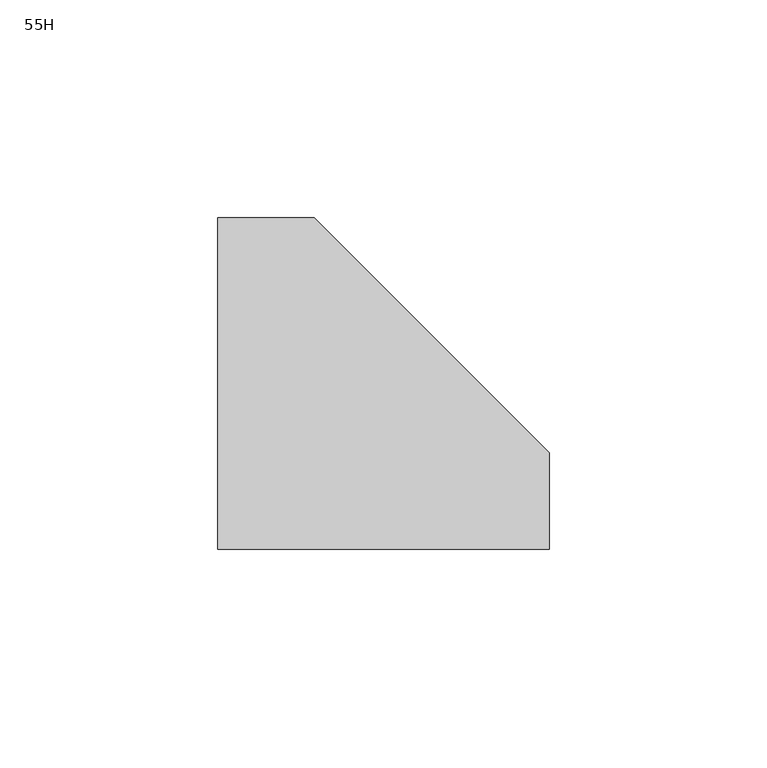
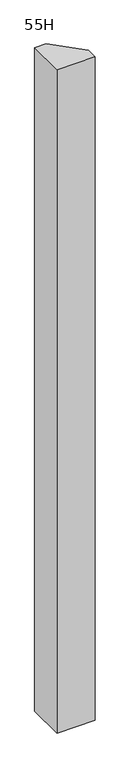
"""IFC4 building model written with IfcOpenShell, lengths in millimetres: furniture geometry, Steelcase - Montage - Junction - L Chamfered- Same-Height : 55H."""

from ifc_helpers import new_model, si_unit, frame, origin, place, context, project, spatial, polyline, outline, extrude, source, transform, mapped, element, save


def furniture_55h_f8dee131(model_context):
    return source(origin(), model_context, "Body", "SweptSolid", [
        extrude(outline(polyline([(533.4, -15.8750015), (533.4, -38.1000015), (457.2, -38.1000015), (457.2, 38.1000015), (479.424997, 38.1000015), (533.4, -15.8750015)])), frame((0.0, 0.0, 4.064), z_axis=(0.0, 0.0, 1.0), x_axis=(1.0, 0.0, 0.0)), (0.0, 0.0, 1.0), 1394.5235),
    ])


if __name__ == "__main__":
    model = new_model("IFC4")
    model_context = context("Model", 3, world=origin())
    ifc_project = project(units=[si_unit("LENGTHUNIT", "METRE", prefix="MILLI")], contexts=[model_context])
    site = spatial("IfcSite", under=ifc_project)
    building = spatial("IfcBuilding", under=site)
    placement = place(None, origin())
    furniture_55h_shape = furniture_55h_f8dee131(model_context)
    element("IfcFurniture", 1, ObjectType="Steelcase - Montage - Junction - L Chamfered- Same-Height : 55H", at=placement, inside=building, context=model_context, shape_type="MappedRepresentation", body=[
        mapped(furniture_55h_shape, transform((0.0, 0.0, 0.0), x_axis=(1.0, 0.0, 0.0), y_axis=(0.0, 1.0, 0.0), z_axis=(0.0, 0.0, 1.0))),
    ])
    save(model, "model.ifc")
